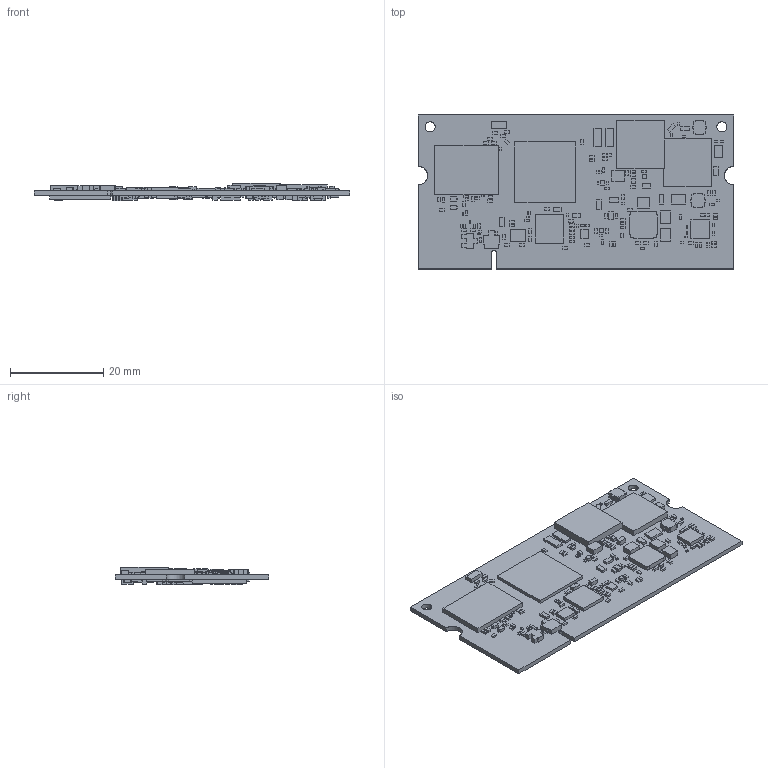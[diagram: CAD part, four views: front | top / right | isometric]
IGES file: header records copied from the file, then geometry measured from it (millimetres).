
Start section: SolidWorks IGES file using analytic representation for surfaces
Global section: file name: G:\VAR-SOM-AM62xOrig.IGS; native system: SolidWorks 2022; preprocessor: SolidWorks 2022; author: Äãñëí; date: 230130.173847; units: millimetre
Bounding box: 67.6 x 32.99 x 3.71 mm (x, y, z)
Surface area: 8137.8 mm2 (no closed solid volume)
Topology: 0 solids, 0 shells, 2834 faces, 11866 edges, 11866 vertices
Faces by surface type: bspline 2825, revolution 9
